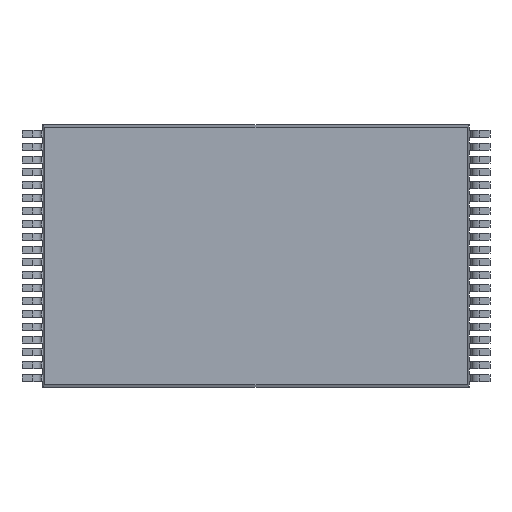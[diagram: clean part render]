
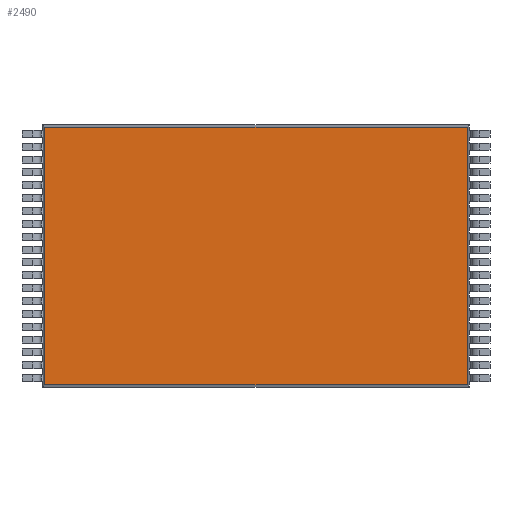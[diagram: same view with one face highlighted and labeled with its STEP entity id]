
A CAD part, front view. The second image highlights one B-rep face of the part: STEP entity #2490.
In plain terms, the highlighted planar face has unit normal (0, -1, 0).
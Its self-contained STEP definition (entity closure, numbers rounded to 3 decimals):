
#1348 = CARTESIAN_POINT ( 'NONE',  ( -8.216, 0.1, 5.1 ) ) ;
#1362 = DIRECTION ( 'NONE',  ( 0., 0., -1. ) ) ;
#1759 = CARTESIAN_POINT ( 'NONE',  ( 8.3, 0.1, 5.016 ) ) ;
#1764 = DIRECTION ( 'NONE',  ( -1., 0., 0. ) ) ;
#1765 = CARTESIAN_POINT ( 'NONE',  ( 8.3, 0.1, -5.016 ) ) ;
#1766 = DIRECTION ( 'NONE',  ( 1., 0., 0. ) ) ;
#2490 = ADVANCED_FACE ( 'NONE', ( #13276 ), #13177, .F. ) ;
#4629 = CARTESIAN_POINT ( 'NONE',  ( 8.216, 0.1, 5.1 ) ) ;
#4643 = DIRECTION ( 'NONE',  ( 0., 0., 1. ) ) ;
#6524 = EDGE_CURVE ( 'NONE', #11735, #11757, #11325, .T. ) ;
#6603 = EDGE_CURVE ( 'NONE', #11736, #11769, #13563, .T. ) ;
#6793 = EDGE_CURVE ( 'NONE', #11757, #11736, #21796, .T. ) ;
#6794 = EDGE_CURVE ( 'NONE', #11769, #11735, #21777, .T. ) ;
#7633 = CARTESIAN_POINT ( 'NONE',  ( 8.216, 0.1, -5.016 ) ) ;
#7634 = CARTESIAN_POINT ( 'NONE',  ( -8.216, 0.1, 5.016 ) ) ;
#7655 = CARTESIAN_POINT ( 'NONE',  ( 8.216, 0.1, 5.016 ) ) ;
#7667 = CARTESIAN_POINT ( 'NONE',  ( -8.216, 0.1, -5.016 ) ) ;
#11325 = LINE ( 'NONE', #4629, #11358 ) ;
#11358 = VECTOR ( 'NONE', #4643, 1000. ) ;
#11735 = VERTEX_POINT ( 'NONE', #7633 ) ;
#11736 = VERTEX_POINT ( 'NONE', #7634 ) ;
#11757 = VERTEX_POINT ( 'NONE', #7655 ) ;
#11769 = VERTEX_POINT ( 'NONE', #7667 ) ;
#12225 = ORIENTED_EDGE ( 'NONE', *, *, #6793, .T. ) ;
#12226 = ORIENTED_EDGE ( 'NONE', *, *, #6524, .T. ) ;
#12227 = ORIENTED_EDGE ( 'NONE', *, *, #6794, .T. ) ;
#12228 = ORIENTED_EDGE ( 'NONE', *, *, #6603, .T. ) ;
#13177 = PLANE ( 'NONE',  #19286 ) ;
#13178 = CARTESIAN_POINT ( 'NONE',  ( 0., 0.1, 0. ) ) ;
#13183 = DIRECTION ( 'NONE',  ( 0., 1., 0. ) ) ;
#13184 = DIRECTION ( 'NONE',  ( 0., 0., 1. ) ) ;
#13276 = FACE_OUTER_BOUND ( 'NONE', #20005, .T. ) ;
#13459 = VECTOR ( 'NONE', #1362, 1000. ) ;
#13563 = LINE ( 'NONE', #1348, #13459 ) ;
#19286 = AXIS2_PLACEMENT_3D ( 'NONE', #13178, #13183, #13184 ) ;
#20005 = EDGE_LOOP ( 'NONE', ( #12228, #12227, #12226, #12225 ) ) ;
#21774 = VECTOR ( 'NONE', #1766, 1000. ) ;
#21776 = VECTOR ( 'NONE', #1764, 1000. ) ;
#21777 = LINE ( 'NONE', #1765, #21774 ) ;
#21796 = LINE ( 'NONE', #1759, #21776 ) ;
